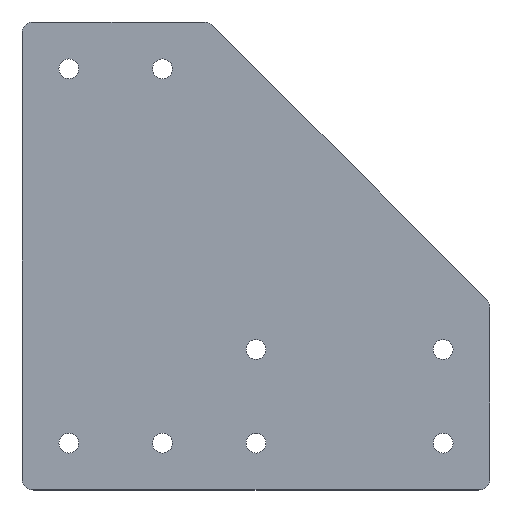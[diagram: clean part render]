
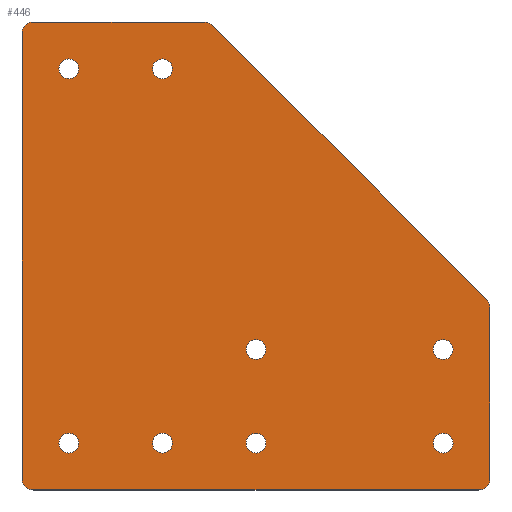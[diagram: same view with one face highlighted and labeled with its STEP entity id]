
A CAD part, top view. The second image highlights one B-rep face of the part: STEP entity #446.
In plain terms, the highlighted planar face has unit normal (0, 0, 1).
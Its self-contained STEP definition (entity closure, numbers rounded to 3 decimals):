
#23=FACE_BOUND('',#86,.T.);
#24=FACE_BOUND('',#87,.T.);
#25=FACE_BOUND('',#88,.T.);
#26=FACE_BOUND('',#89,.T.);
#27=FACE_BOUND('',#90,.T.);
#28=FACE_BOUND('',#91,.T.);
#29=FACE_BOUND('',#92,.T.);
#30=FACE_BOUND('',#93,.T.);
#37=PLANE('',#520);
#57=FACE_OUTER_BOUND('',#85,.T.);
#85=EDGE_LOOP('',(#388,#389,#390,#391,#392,#393,#394,#395,#396,#397));
#86=EDGE_LOOP('',(#398,#399));
#87=EDGE_LOOP('',(#400,#401));
#88=EDGE_LOOP('',(#402,#403));
#89=EDGE_LOOP('',(#404,#405));
#90=EDGE_LOOP('',(#406,#407));
#91=EDGE_LOOP('',(#408,#409));
#92=EDGE_LOOP('',(#410,#411));
#93=EDGE_LOOP('',(#412,#413));
#104=LINE('',#722,#132);
#111=LINE('',#750,#139);
#114=LINE('',#759,#142);
#120=LINE('',#782,#148);
#121=LINE('',#784,#149);
#132=VECTOR('',#589,10.);
#139=VECTOR('',#616,10.);
#142=VECTOR('',#625,10.);
#148=VECTOR('',#653,10.);
#149=VECTOR('',#656,10.);
#150=CIRCLE('',#468,4.25);
#151=CIRCLE('',#469,4.25);
#153=CIRCLE('',#472,4.25);
#154=CIRCLE('',#473,4.25);
#156=CIRCLE('',#476,4.25);
#157=CIRCLE('',#477,4.25);
#159=CIRCLE('',#480,4.25);
#160=CIRCLE('',#481,4.25);
#162=CIRCLE('',#484,4.25);
#163=CIRCLE('',#485,4.25);
#165=CIRCLE('',#488,4.25);
#166=CIRCLE('',#489,4.25);
#168=CIRCLE('',#492,5.);
#176=CIRCLE('',#503,5.);
#177=CIRCLE('',#506,5.);
#178=CIRCLE('',#509,5.);
#179=CIRCLE('',#511,5.);
#180=CIRCLE('',#513,4.25);
#181=CIRCLE('',#514,4.25);
#182=CIRCLE('',#516,4.25);
#183=CIRCLE('',#517,4.25);
#184=VERTEX_POINT('',#661);
#185=VERTEX_POINT('',#662);
#187=VERTEX_POINT('',#669);
#188=VERTEX_POINT('',#670);
#190=VERTEX_POINT('',#677);
#191=VERTEX_POINT('',#678);
#193=VERTEX_POINT('',#685);
#194=VERTEX_POINT('',#686);
#196=VERTEX_POINT('',#693);
#197=VERTEX_POINT('',#694);
#199=VERTEX_POINT('',#701);
#200=VERTEX_POINT('',#702);
#202=VERTEX_POINT('',#709);
#203=VERTEX_POINT('',#710);
#207=VERTEX_POINT('',#720);
#217=VERTEX_POINT('',#744);
#218=VERTEX_POINT('',#748);
#219=VERTEX_POINT('',#752);
#220=VERTEX_POINT('',#753);
#221=VERTEX_POINT('',#758);
#222=VERTEX_POINT('',#762);
#223=VERTEX_POINT('',#766);
#224=VERTEX_POINT('',#770);
#225=VERTEX_POINT('',#771);
#226=VERTEX_POINT('',#776);
#227=VERTEX_POINT('',#777);
#228=EDGE_CURVE('',#184,#185,#150,.T.);
#229=EDGE_CURVE('',#185,#184,#151,.T.);
#232=EDGE_CURVE('',#187,#188,#153,.T.);
#233=EDGE_CURVE('',#188,#187,#154,.T.);
#236=EDGE_CURVE('',#190,#191,#156,.T.);
#237=EDGE_CURVE('',#191,#190,#157,.T.);
#240=EDGE_CURVE('',#193,#194,#159,.T.);
#241=EDGE_CURVE('',#194,#193,#160,.T.);
#244=EDGE_CURVE('',#196,#197,#162,.T.);
#245=EDGE_CURVE('',#197,#196,#163,.T.);
#248=EDGE_CURVE('',#199,#200,#165,.T.);
#249=EDGE_CURVE('',#200,#199,#166,.T.);
#252=EDGE_CURVE('',#202,#203,#168,.T.);
#258=EDGE_CURVE('',#207,#202,#104,.T.);
#269=EDGE_CURVE('',#217,#207,#176,.T.);
#272=EDGE_CURVE('',#218,#217,#111,.T.);
#273=EDGE_CURVE('',#219,#220,#177,.T.);
#276=EDGE_CURVE('',#220,#221,#114,.T.);
#278=EDGE_CURVE('',#221,#222,#178,.T.);
#280=EDGE_CURVE('',#223,#218,#179,.T.);
#282=EDGE_CURVE('',#224,#225,#180,.T.);
#283=EDGE_CURVE('',#225,#224,#181,.T.);
#285=EDGE_CURVE('',#226,#227,#182,.T.);
#286=EDGE_CURVE('',#227,#226,#183,.T.);
#288=EDGE_CURVE('',#222,#223,#120,.T.);
#289=EDGE_CURVE('',#203,#219,#121,.T.);
#388=ORIENTED_EDGE('',*,*,#252,.F.);
#389=ORIENTED_EDGE('',*,*,#258,.F.);
#390=ORIENTED_EDGE('',*,*,#269,.F.);
#391=ORIENTED_EDGE('',*,*,#272,.F.);
#392=ORIENTED_EDGE('',*,*,#280,.F.);
#393=ORIENTED_EDGE('',*,*,#288,.F.);
#394=ORIENTED_EDGE('',*,*,#278,.F.);
#395=ORIENTED_EDGE('',*,*,#276,.F.);
#396=ORIENTED_EDGE('',*,*,#273,.F.);
#397=ORIENTED_EDGE('',*,*,#289,.F.);
#398=ORIENTED_EDGE('',*,*,#228,.T.);
#399=ORIENTED_EDGE('',*,*,#229,.T.);
#400=ORIENTED_EDGE('',*,*,#232,.T.);
#401=ORIENTED_EDGE('',*,*,#233,.T.);
#402=ORIENTED_EDGE('',*,*,#236,.T.);
#403=ORIENTED_EDGE('',*,*,#237,.T.);
#404=ORIENTED_EDGE('',*,*,#240,.T.);
#405=ORIENTED_EDGE('',*,*,#241,.T.);
#406=ORIENTED_EDGE('',*,*,#244,.T.);
#407=ORIENTED_EDGE('',*,*,#245,.T.);
#408=ORIENTED_EDGE('',*,*,#248,.T.);
#409=ORIENTED_EDGE('',*,*,#249,.T.);
#410=ORIENTED_EDGE('',*,*,#282,.T.);
#411=ORIENTED_EDGE('',*,*,#283,.T.);
#412=ORIENTED_EDGE('',*,*,#285,.T.);
#413=ORIENTED_EDGE('',*,*,#286,.T.);
#446=ADVANCED_FACE('',(#57,#23,#24,#25,#26,#27,#28,#29,#30),#37,.T.);
#468=AXIS2_PLACEMENT_3D('',#663,#525,#526);
#469=AXIS2_PLACEMENT_3D('',#664,#527,#528);
#472=AXIS2_PLACEMENT_3D('',#671,#534,#535);
#473=AXIS2_PLACEMENT_3D('',#672,#536,#537);
#476=AXIS2_PLACEMENT_3D('',#679,#543,#544);
#477=AXIS2_PLACEMENT_3D('',#680,#545,#546);
#480=AXIS2_PLACEMENT_3D('',#687,#552,#553);
#481=AXIS2_PLACEMENT_3D('',#688,#554,#555);
#484=AXIS2_PLACEMENT_3D('',#695,#561,#562);
#485=AXIS2_PLACEMENT_3D('',#696,#563,#564);
#488=AXIS2_PLACEMENT_3D('',#703,#570,#571);
#489=AXIS2_PLACEMENT_3D('',#704,#572,#573);
#492=AXIS2_PLACEMENT_3D('',#711,#579,#580);
#503=AXIS2_PLACEMENT_3D('',#745,#610,#611);
#506=AXIS2_PLACEMENT_3D('',#754,#619,#620);
#509=AXIS2_PLACEMENT_3D('',#763,#629,#630);
#511=AXIS2_PLACEMENT_3D('',#767,#634,#635);
#513=AXIS2_PLACEMENT_3D('',#772,#639,#640);
#514=AXIS2_PLACEMENT_3D('',#773,#641,#642);
#516=AXIS2_PLACEMENT_3D('',#778,#646,#647);
#517=AXIS2_PLACEMENT_3D('',#779,#648,#649);
#520=AXIS2_PLACEMENT_3D('',#785,#657,#658);
#525=DIRECTION('center_axis',(0.,0.,-1.));
#526=DIRECTION('ref_axis',(1.,0.,0.));
#527=DIRECTION('center_axis',(0.,0.,-1.));
#528=DIRECTION('ref_axis',(1.,0.,0.));
#534=DIRECTION('center_axis',(0.,0.,-1.));
#535=DIRECTION('ref_axis',(1.,0.,0.));
#536=DIRECTION('center_axis',(0.,0.,-1.));
#537=DIRECTION('ref_axis',(1.,0.,0.));
#543=DIRECTION('center_axis',(0.,0.,-1.));
#544=DIRECTION('ref_axis',(1.,0.,0.));
#545=DIRECTION('center_axis',(0.,0.,-1.));
#546=DIRECTION('ref_axis',(1.,0.,0.));
#552=DIRECTION('center_axis',(0.,0.,-1.));
#553=DIRECTION('ref_axis',(1.,0.,0.));
#554=DIRECTION('center_axis',(0.,0.,-1.));
#555=DIRECTION('ref_axis',(1.,0.,0.));
#561=DIRECTION('center_axis',(0.,0.,-1.));
#562=DIRECTION('ref_axis',(1.,0.,0.));
#563=DIRECTION('center_axis',(0.,0.,-1.));
#564=DIRECTION('ref_axis',(1.,0.,0.));
#570=DIRECTION('center_axis',(0.,0.,-1.));
#571=DIRECTION('ref_axis',(1.,0.,0.));
#572=DIRECTION('center_axis',(0.,0.,-1.));
#573=DIRECTION('ref_axis',(1.,0.,0.));
#579=DIRECTION('center_axis',(0.,0.,-1.));
#580=DIRECTION('ref_axis',(0.924,0.383,0.));
#589=DIRECTION('',(0.707,-0.707,0.));
#610=DIRECTION('center_axis',(0.,0.,-1.));
#611=DIRECTION('ref_axis',(0.383,0.924,0.));
#616=DIRECTION('',(1.,0.,0.));
#619=DIRECTION('center_axis',(0.,0.,-1.));
#620=DIRECTION('ref_axis',(0.707,-0.707,0.));
#625=DIRECTION('',(-1.,0.,0.));
#629=DIRECTION('center_axis',(0.,0.,-1.));
#630=DIRECTION('ref_axis',(-0.707,-0.707,0.));
#634=DIRECTION('center_axis',(0.,0.,-1.));
#635=DIRECTION('ref_axis',(-0.707,0.707,0.));
#639=DIRECTION('center_axis',(0.,0.,-1.));
#640=DIRECTION('ref_axis',(1.,0.,0.));
#641=DIRECTION('center_axis',(0.,0.,-1.));
#642=DIRECTION('ref_axis',(1.,0.,0.));
#646=DIRECTION('center_axis',(0.,0.,-1.));
#647=DIRECTION('ref_axis',(1.,0.,0.));
#648=DIRECTION('center_axis',(0.,0.,-1.));
#649=DIRECTION('ref_axis',(1.,0.,0.));
#653=DIRECTION('',(0.,1.,0.));
#656=DIRECTION('',(0.,-1.,0.));
#657=DIRECTION('center_axis',(0.,0.,1.));
#658=DIRECTION('ref_axis',(1.,0.,0.));
#661=CARTESIAN_POINT('',(64.25,180.,3.));
#662=CARTESIAN_POINT('',(55.75,180.,3.));
#663=CARTESIAN_POINT('Origin',(60.,180.,3.));
#664=CARTESIAN_POINT('Origin',(60.,180.,3.));
#669=CARTESIAN_POINT('',(64.25,20.,3.));
#670=CARTESIAN_POINT('',(55.75,20.,3.));
#671=CARTESIAN_POINT('Origin',(60.,20.,3.));
#672=CARTESIAN_POINT('Origin',(60.,20.,3.));
#677=CARTESIAN_POINT('',(24.25,180.,3.));
#678=CARTESIAN_POINT('',(15.75,180.,3.));
#679=CARTESIAN_POINT('Origin',(20.,180.,3.));
#680=CARTESIAN_POINT('Origin',(20.,180.,3.));
#685=CARTESIAN_POINT('',(104.25,60.,3.));
#686=CARTESIAN_POINT('',(95.75,60.,3.));
#687=CARTESIAN_POINT('Origin',(100.,60.,3.));
#688=CARTESIAN_POINT('Origin',(100.,60.,3.));
#693=CARTESIAN_POINT('',(104.25,20.,3.));
#694=CARTESIAN_POINT('',(95.75,20.,3.));
#695=CARTESIAN_POINT('Origin',(100.,20.,3.));
#696=CARTESIAN_POINT('Origin',(100.,20.,3.));
#701=CARTESIAN_POINT('',(184.25,60.,3.));
#702=CARTESIAN_POINT('',(175.75,60.,3.));
#703=CARTESIAN_POINT('Origin',(180.,60.,3.));
#704=CARTESIAN_POINT('Origin',(180.,60.,3.));
#709=CARTESIAN_POINT('',(198.536,81.464,3.));
#710=CARTESIAN_POINT('',(200.,77.929,3.));
#711=CARTESIAN_POINT('Origin',(195.,77.929,3.));
#720=CARTESIAN_POINT('',(81.464,198.536,3.));
#722=CARTESIAN_POINT('',(200.,80.,3.));
#744=CARTESIAN_POINT('',(77.929,200.,3.));
#745=CARTESIAN_POINT('Origin',(77.929,195.,3.));
#748=CARTESIAN_POINT('',(5.,200.,3.));
#750=CARTESIAN_POINT('',(80.,200.,3.));
#752=CARTESIAN_POINT('',(200.,5.,3.));
#753=CARTESIAN_POINT('',(195.,0.,3.));
#754=CARTESIAN_POINT('Origin',(195.,5.,3.));
#758=CARTESIAN_POINT('',(5.,0.,3.));
#759=CARTESIAN_POINT('',(0.,0.,3.));
#762=CARTESIAN_POINT('',(0.,5.,3.));
#763=CARTESIAN_POINT('Origin',(5.,5.,3.));
#766=CARTESIAN_POINT('',(0.,195.,3.));
#767=CARTESIAN_POINT('Origin',(5.,195.,3.));
#770=CARTESIAN_POINT('',(184.25,20.,3.));
#771=CARTESIAN_POINT('',(175.75,20.,3.));
#772=CARTESIAN_POINT('Origin',(180.,20.,3.));
#773=CARTESIAN_POINT('Origin',(180.,20.,3.));
#776=CARTESIAN_POINT('',(24.25,20.,3.));
#777=CARTESIAN_POINT('',(15.75,20.,3.));
#778=CARTESIAN_POINT('Origin',(20.,20.,3.));
#779=CARTESIAN_POINT('Origin',(20.,20.,3.));
#782=CARTESIAN_POINT('',(0.,200.,3.));
#784=CARTESIAN_POINT('',(200.,0.,3.));
#785=CARTESIAN_POINT('Origin',(86.28,86.28,3.));
